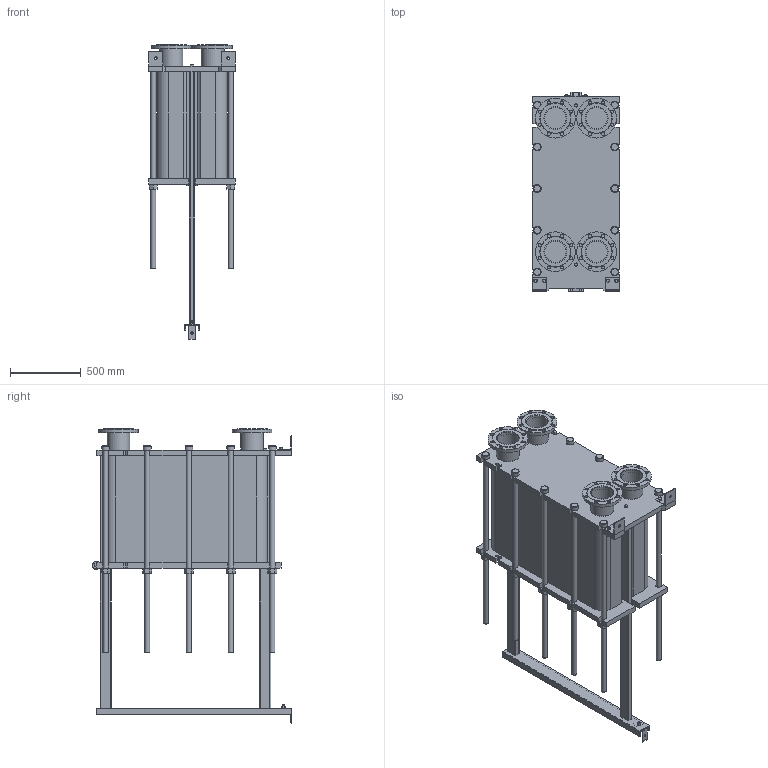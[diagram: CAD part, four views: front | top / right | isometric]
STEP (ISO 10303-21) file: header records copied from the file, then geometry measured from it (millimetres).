
FILE_DESCRIPTION(/* description */ (''),/* implementation_level */ '2;1');
FILE_NAME(/* name */ 'C:\Users\zhuro\Desktop\ENCO\TO\ЭН-041\ЭН-0,5-041-218-1.stp',/* time_stamp */ '2022-06-06T11:07:17+03:00',/* author */ ('zhuro'),/* organization */ (''),/* preprocessor_version */ 'ST-DEVELOPER v18.1',/* originating_system */ 'Autodesk Inventor 2022',/* authorisation */ '');
FILE_SCHEMA (('AUTOMOTIVE_DESIGN { 1 0 10303 214 3 1 1 }'));
Length unit declared in the file: millimetre
Products named in the file (1): ЭН-0,5-041-218-1
Bounding box: 610 x 1406.5 x 2075 mm (x, y, z)
Volume: 511774391.2 mm3; surface area: 11626314.4 mm2
Topology: 52 solids, 52 shells, 711 faces, 1696 edges, 1094 vertices
Faces by surface type: plane 487, cylinder 177, cone 41, torus 6
Full cylindrical faces by diameter (mm): 8 x4, 10 x2, 16 x8, 18 x3, 22 x32, 36 x24, 50 x1, 54 x10, 60 x12, 151 x4, 161 x8, 280 x4
Entity records: 22667 total; most frequent: CARTESIAN_POINT 5230, DIRECTION 3644, ORIENTED_EDGE 3392, EDGE_CURVE 1696, AXIS2_PLACEMENT_3D 1272, LINE 1100, VECTOR 1100, VERTEX_POINT 1094
